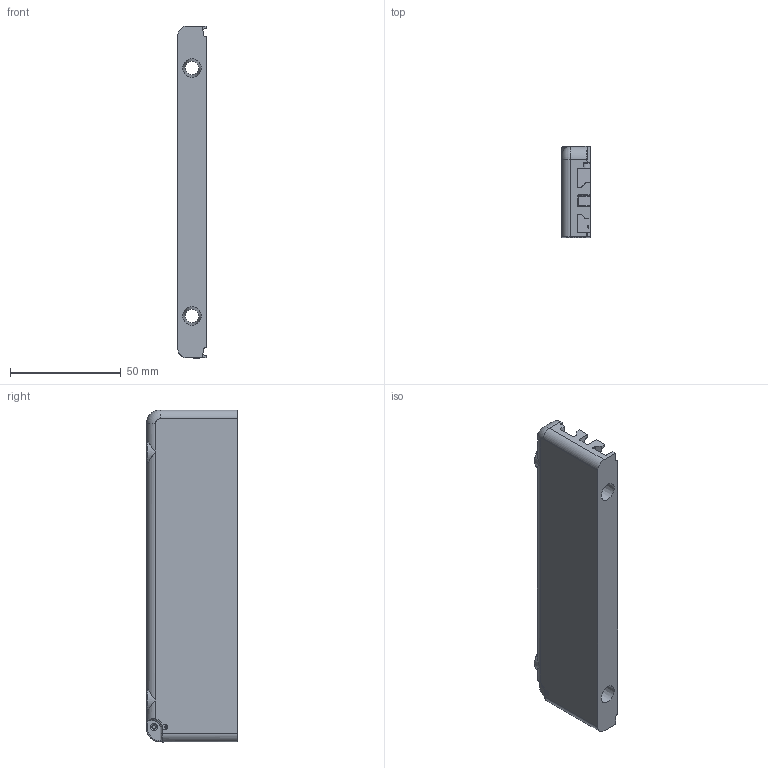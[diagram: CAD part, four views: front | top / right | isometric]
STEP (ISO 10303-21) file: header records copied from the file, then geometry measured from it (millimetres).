
FILE_DESCRIPTION (( 'STEP AP214' ), '1' );
FILE_NAME ('M-M0001-01.STEP', '2019-07-11T11:16:44', ( 'user' ), ( '' ), 'SwSTEP 2.0', 'SolidWorks 2014', '' );
FILE_SCHEMA (( 'AUTOMOTIVE_DESIGN' ));
Length unit declared in the file: millimetre
Products named in the file (1): M-M0001-01
Bounding box: 12.7 x 40.9 x 150 mm (x, y, z)
Volume: 45185.3 mm3; surface area: 23721.6 mm2
Topology: 1 solids, 1 shells, 508 faces, 1236 edges, 722 vertices
Faces by surface type: bspline 150, cylinder 149, plane 128, torus 33, sphere 24, cone 24
Full cylindrical faces by diameter (mm): 2.5 x1
Entity records: 23857 total; most frequent: CARTESIAN_POINT 7807, ORIENTED_EDGE 2424, DIRECTION 1907, EDGE_CURVE 1212, VERTEX_POINT 720, AXIS2_PLACEMENT_3D 717, EDGE_LOOP 526, UNCERTAINTY_MEASURE_WITH_UNIT 511
